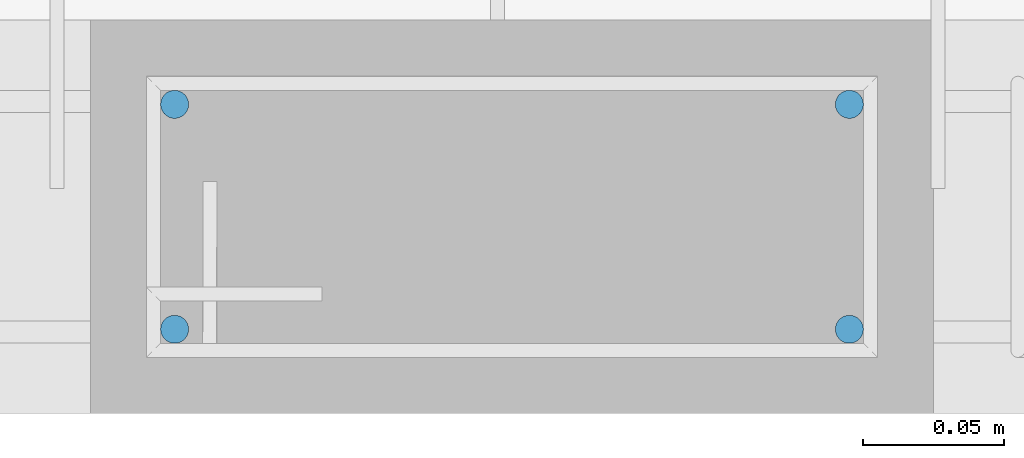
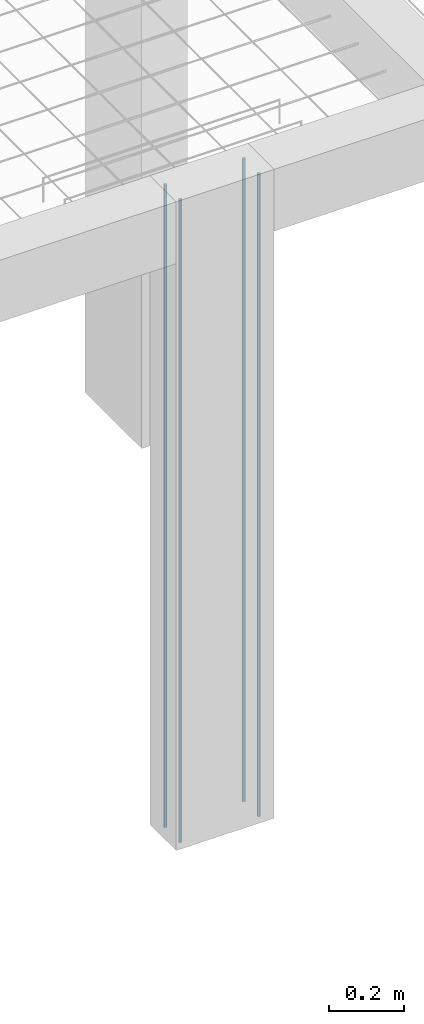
# One storey, part 37 of 236: 4 reinforcing bars.
"""IFC4 building model written with IfcOpenShell, lengths in centimetres."""

import ifcopenshell
import ifcopenshell.guid

model = None  # the IFC model being written
_history = None  # IfcOwnerHistory: only IFC2X3 demands one
_inside = {}  # id of a spatial element -> (the spatial element, [elements in it])
_under = {}  # id of a project, library or spatial element -> (it, [spatial elements below it])
_declared = {}  # id of a project -> (the project, [libraries it declares])
_typed = {}  # id of a type object -> (the type object, [elements of that type])
_made_of = {}  # id of a material, layer set ... -> (it, [elements and type objects made of it])


def new_model(schema):
    """Start an empty IFC model of exactly this schema.

    Asked for "IFC4X3", IfcOpenShell would pick the latest addendum, in which some entities
    have other attributes; the version numbers below select the first issue.
    IFC2X3 requires an IfcOwnerHistory on every rooted entity: one is made here for all.
    """
    global model, _history
    if schema == "IFC4X3":
        model = ifcopenshell.file(schema_version=(4, 3, 0, 0))
    else:
        model = ifcopenshell.file(schema=schema)
    _inside.clear()
    _under.clear()
    _declared.clear()
    _typed.clear()
    _made_of.clear()
    _history = None
    if model.schema == "IFC2X3":
        org = make("IfcOrganization", Name="unknown")
        user = make(
            "IfcPersonAndOrganization",
            ThePerson=make("IfcPerson", FamilyName="unknown"),
            TheOrganization=org,
        )
        app = make(
            "IfcApplication",
            ApplicationDeveloper=org,
            Version="unknown",
            ApplicationFullName="unknown",
            ApplicationIdentifier="unknown",
        )
        _history = make(
            "IfcOwnerHistory",
            OwningUser=user,
            OwningApplication=app,
            ChangeAction="ADDED",
            CreationDate=0,
        )
    return model


def make(cls, **values):
    """One entity of the class cls with the attributes given. An attribute that is None is left unset."""
    return model.create_entity(
        cls, **{name: value for name, value in values.items() if value is not None}
    )


def entity(cls, *values):
    """Any entity or typed value of the class cls, its attributes in the order of the schema. None: left unset."""
    e = model.create_entity(cls)
    for i, value in enumerate(values):
        if value is not None:
            e[i] = value
    return e


def rooted(cls, **values):
    """An entity with a GlobalId (a new one), such as an element, a storey or a relation."""
    return make(cls, GlobalId=ifcopenshell.guid.new(), OwnerHistory=_history, **values)


def si_unit(unit_type, name, prefix=None):
    """IfcSIUnit, for example si_unit("LENGTHUNIT", "METRE", prefix="MILLI")."""
    return make("IfcSIUnit", UnitType=unit_type, Prefix=prefix, Name=name)


def derived_unit(unit_type, elements):
    """IfcDerivedUnit: a product of units, each with its exponent."""
    return make(
        "IfcDerivedUnit",
        Elements=[
            make("IfcDerivedUnitElement", Unit=unit, Exponent=power)
            for unit, power in elements
        ],
        UnitType=unit_type,
    )


def assignment(units):
    """IfcUnitAssignment: the units of a project."""
    return None if units is None else make("IfcUnitAssignment", Units=units)


def point(xyz):
    """IfcCartesianPoint."""
    return None if xyz is None else make("IfcCartesianPoint", Coordinates=xyz)


def direction(xyz):
    """IfcDirection."""
    return None if xyz is None else make("IfcDirection", DirectionRatios=xyz)


def frame(location, z_axis=None, x_axis=None):
    """IfcAxis2Placement3D, a coordinate frame: its origin and axes. An axis left out is left unset."""
    return make(
        "IfcAxis2Placement3D",
        Location=point(location),
        Axis=direction(z_axis),
        RefDirection=direction(x_axis),
    )


def origin_with_axes():
    """The frame at (0, 0, 0) with the z axis (0, 0, 1) and the x axis (1, 0, 0) written out."""
    return frame((0.0, 0.0, 0.0), z_axis=(0.0, 0.0, 1.0), x_axis=(1.0, 0.0, 0.0))


def place(relative_to, where):
    """IfcLocalPlacement: puts the frame where relative to a parent placement (None: the world)."""
    return make(
        "IfcLocalPlacement", PlacementRelTo=relative_to, RelativePlacement=where
    )


def context(
    kind, dimensions, precision=None, world=None, true_north=None, identifier=None
):
    """IfcGeometricRepresentationContext, for example the 3D "Model" context."""
    return make(
        "IfcGeometricRepresentationContext",
        ContextIdentifier=identifier,
        ContextType=kind,
        CoordinateSpaceDimension=dimensions,
        Precision=precision,
        WorldCoordinateSystem=world,
        TrueNorth=true_north,
    )


def project(units=None, contexts=None):
    """IfcProject with its units and contexts."""
    return rooted(
        "IfcProject",
        Name="project",
        RepresentationContexts=contexts,
        UnitsInContext=assignment(units),
    )


def spatial(cls, under=None, at=None, **own):
    """A site, building, storey or space (cls), placed at a placement, below another one or the project."""
    s = rooted(cls, ObjectPlacement=at, **own)
    if under is not None:
        _under.setdefault(under.id(), (under, []))[1].append(s)
    return s


def shape(context_of_items, identifier, shape_type, items):
    """IfcShapeRepresentation: the items that make up one representation, for example the "Body"."""
    return make(
        "IfcShapeRepresentation",
        ContextOfItems=context_of_items,
        RepresentationIdentifier=identifier,
        RepresentationType=shape_type,
        Items=items,
    )


def made_of(thing, what):
    """Note that an element or type object is made of a material, layer set ...; save() writes the relation."""
    if what is not None:
        _made_of.setdefault(what.id(), (what, []))[1].append(thing)
    return thing


def element(
    cls,
    number,
    at=None,
    inside=None,
    cuts=None,
    type_object=None,
    material=None,
    context=None,
    identifier="Body",
    shape_type=None,
    held_by="IfcProductDefinitionShape",
    body=None,
    shapes=None,
    **own,
):
    """One element of the class cls, such as IfcWall. Its Tag is "e" and its number.

    at: its placement. inside: the storey or other place that contains it. cuts: it is an
    opening in that element (IfcRelVoidsElement). A single representation is given by context,
    identifier, shape_type and body (its items); several are given by shapes. held_by: the class
    of the entity that holds the representations. save() writes the other relations.
    """
    e = rooted(cls, Tag="e%d" % number, ObjectPlacement=at, **own)
    if body is not None:
        shapes = [shape(context, identifier, shape_type, body)]
    if shapes is not None:
        e.Representation = make(held_by, Representations=shapes)
    if inside is not None:
        _inside.setdefault(inside.id(), (inside, []))[1].append(e)
    if cuts is not None:
        rooted(
            "IfcRelVoidsElement", RelatingBuildingElement=cuts, RelatedOpeningElement=e
        )
    if type_object is not None:
        _typed.setdefault(type_object.id(), (type_object, []))[1].append(e)
    return made_of(e, material)


def aggregate(whole, parts):
    """IfcRelAggregates: a whole, such as a stair, and the parts it consists of."""
    return rooted("IfcRelAggregates", RelatingObject=whole, RelatedObjects=parts)


def save(model, path):
    """Write the relations noted so far, then the file.

    IfcRelAggregates (storeys below a building ...), IfcRelContainedInSpatialStructure (elements
    in a storey), IfcRelDefinesByType, IfcRelAssociatesMaterial and IfcRelDeclares: one each for
    every whole, place, type object, material and project.
    """
    for whole, parts in _under.values():
        aggregate(whole, parts)
    for where, things in _inside.values():
        rooted(
            "IfcRelContainedInSpatialStructure",
            RelatedElements=things,
            RelatingStructure=where,
        )
    for kind, things in _typed.values():
        rooted("IfcRelDefinesByType", RelatedObjects=things, RelatingType=kind)
    for what, things in _made_of.values():
        rooted("IfcRelAssociatesMaterial", RelatedObjects=things, RelatingMaterial=what)
    for by, libraries in _declared.values():
        rooted("IfcRelDeclares", RelatingContext=by, RelatedDefinitions=libraries)
    model.write(path)


model = new_model("IFC4")

# Units and contexts
model_context = context("Model", 3, precision=1e-05, world=origin_with_axes(), identifier="Body")
ifc_project = project(units=[si_unit("LENGTHUNIT", "METRE", prefix="CENTI"), si_unit("VOLUMEUNIT", "CUBIC_METRE"), si_unit("AREAUNIT", "SQUARE_METRE"), si_unit("POWERUNIT", "WATT"), si_unit("LUMINOUSFLUXUNIT", "LUMEN"), si_unit("ELECTRICCURRENTUNIT", "AMPERE"), si_unit("PRESSUREUNIT", "PASCAL", prefix="KILO"), si_unit("MASSUNIT", "GRAM", prefix="KILO"), si_unit("PLANEANGLEUNIT", "RADIAN"), derived_unit("VOLUMETRICFLOWRATEUNIT", [(si_unit("LENGTHUNIT", "METRE"), 3), (si_unit("TIMEUNIT", "SECOND"), -1)])], contexts=[model_context])

# Site, building, storey
site_placement = place(None, frame((-4000.0, 0.0, 0.0), z_axis=(0.0, 0.0, 1.0), x_axis=(1.0, 0.0, 0.0)))
site = spatial("IfcSite", under=ifc_project, at=site_placement, Name="PADRÃO")
building_placement = place(site_placement, frame((0.0, 0.0, -14.0)))
building = spatial("IfcBuilding", under=site, at=building_placement, Name="CRECHE PRÉ-ESCOLA TIPO 2")
placement_1 = place(building_placement, origin_with_axes())
placement_2 = place(placement_1, frame((0.0, 0.0, 30.0), z_axis=(0.0, 0.0, 1.0), x_axis=(1.0, 0.0, 0.0)))
storey_placement = place(placement_2, frame((0.0, 0.0, 310.0), z_axis=(0.0, 0.0, 1.0), x_axis=(1.0, 0.0, 0.0)))
storey = spatial("IfcBuildingStorey", under=building, at=storey_placement, Name="TERREO", CompositionType="ELEMENT", Elevation=326.0)

# Reinforcing bars
for number, where, z_axis, x_axis, name in (
    (1, (2748.5, 5.0, -102.0), (0.0, 0.0, 1.0), (1.0, 0.0, 0.0), "P164 - Longitudinal"),
    (2, (2748.5, 13.0, -102.0), (0.0, 0.0, 1.0), (1.0, 0.0, 0.0), "P164 - Longitudinal"),
    (3, (2772.5, 13.0, -102.0), (0.0, 0.0, 1.0), (1.0, 0.0, 0.0), "P164 - Longitudinal"),
    (4, (2772.5, 5.0, -102.0), (0.0, 0.0, 1.0), (1.0, 0.0, 0.0), "P164 - Longitudinal"),
):
    element("IfcReinforcingBar", number, at=place(storey_placement, frame(where, z_axis=z_axis, x_axis=x_axis)), inside=storey, Name=name, BarLength=0.0, CrossSectionArea=7.853981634e-05, NominalDiameter=1.0, PredefinedType="MAIN", context=model_context, shape_type="AdvancedSweptSolid", body=[
        entity("IfcSweptDiskSolid", entity("IfcCompositeCurve", [entity("IfcCompositeCurveSegment", "CONTINUOUS", True, entity("IfcPolyline", [entity("IfcCartesianPoint", [0.0, 0.0, -208.0]), entity("IfcCartesianPoint", [0.0, 0.0, 0.0])]))], False), 0.5),
    ])

save(model, "model.ifc")
